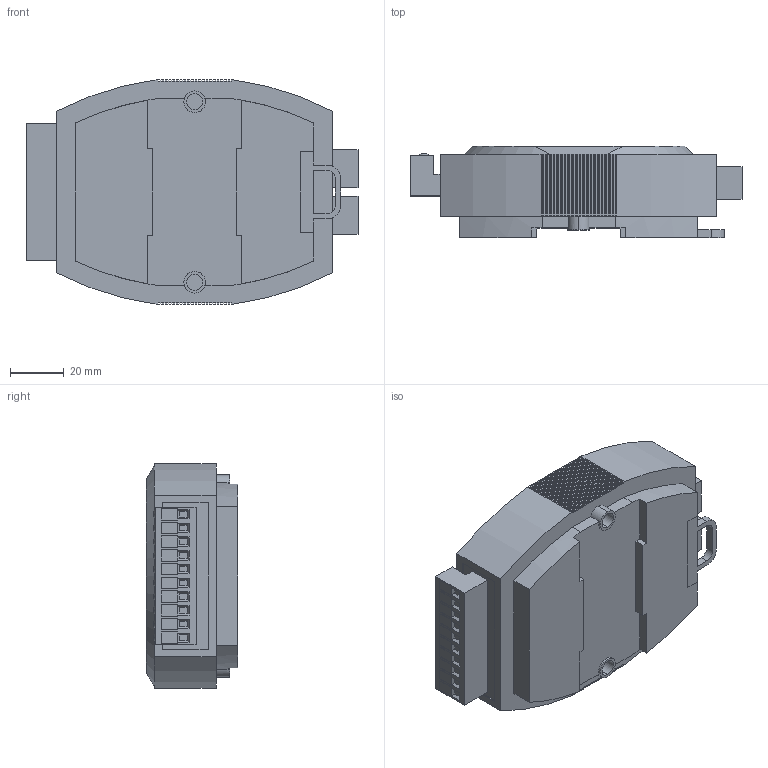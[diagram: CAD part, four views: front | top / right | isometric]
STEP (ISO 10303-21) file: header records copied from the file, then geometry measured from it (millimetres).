
FILE_DESCRIPTION (( 'STEP AP203' ), '1' );
FILE_NAME ('FBR-SERIAL-mm-SC.STEP', '2017-12-14T07:03:03', ( '' ), ( '' ), 'SwSTEP 2.0', 'SolidWorks 2013', '' );
FILE_SCHEMA (( 'CONFIG_CONTROL_DESIGN' ));
Length unit declared in the file: millimetre
Products named in the file (3): mmsc; FBR-SERIAL-mm-SC; pan cross head_am_B18.6.7M - M2 x 0.4 x 4 Type I Cross Recessed PHMS --4C
Assembly tree (11 placements, depth 2):
  FBR-SERIAL-mm-SC
    mmsc
    pan cross head_am_B18.6.7M - M2 x 0.4 x 4 Type I Cross Recessed PHMS --4C  x10
Bounding box: 123.4 x 34 x 83.5 mm (x, y, z)
Volume: 241467.1 mm3; surface area: 34397.8 mm2
Topology: 12 solids, 12 shells, 931 faces, 2838 edges, 2106 vertices
Faces by surface type: plane 785, cylinder 104, torus 20, sphere 20, bspline 2
Entity records: 31953 total; most frequent: CARTESIAN_POINT 10495, ORIENTED_EDGE 4776, DIRECTION 3600, EDGE_CURVE 2388, VERTEX_POINT 1836, VECTOR 1778, LINE 1778, AXIS2_PLACEMENT_3D 911
